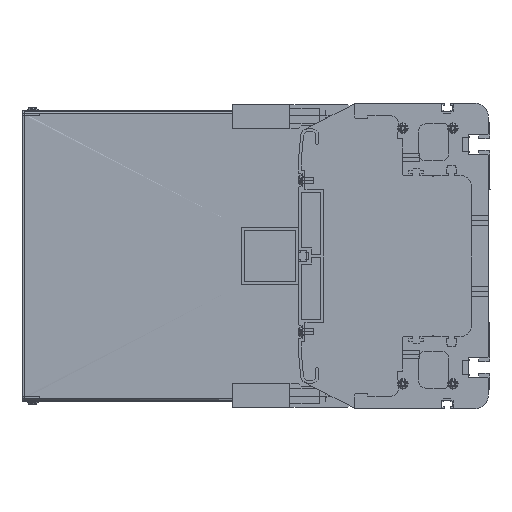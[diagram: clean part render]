
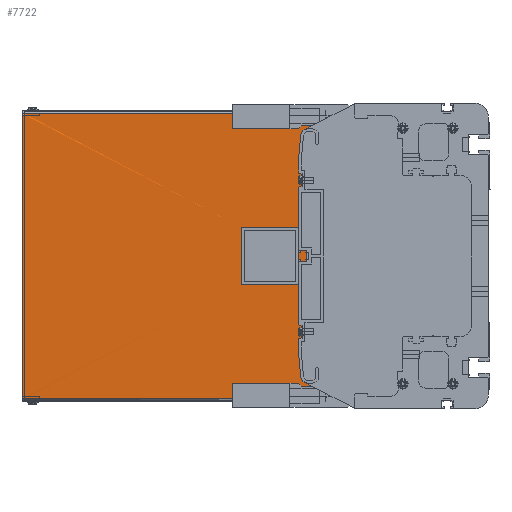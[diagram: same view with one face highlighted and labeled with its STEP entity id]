
A CAD part, left-side view. The second image highlights one B-rep face of the part: STEP entity #7722.
In plain terms, the highlighted planar face has unit normal (-1, 0, 0).
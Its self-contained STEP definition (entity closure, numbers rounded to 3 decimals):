
#153=DIRECTION('',(0.,1.,0.));
#154=VECTOR('',#153,1.5);
#155=CARTESIAN_POINT('',(-134.5,326.,98.5));
#156=LINE('',#155,#154);
#242=DIRECTION('',(0.,0.,1.));
#243=VECTOR('',#242,197.);
#244=CARTESIAN_POINT('',(-134.5,327.5,-98.5));
#245=LINE('',#244,#243);
#289=CARTESIAN_POINT('',(-134.5,326.,-98.5));
#290=CARTESIAN_POINT('',(-134.5,326.,-98.624));
#291=CARTESIAN_POINT('',(-134.521,326.,-98.867));
#292=CARTESIAN_POINT('',(-134.457,326.,-99.099));
#293=CARTESIAN_POINT('',(-134.457,326.,-99.212));
#295=CARTESIAN_POINT('',(-134.457,326.,99.212));
#296=CARTESIAN_POINT('',(-134.457,326.,99.099));
#297=CARTESIAN_POINT('',(-134.521,326.,98.867));
#298=CARTESIAN_POINT('',(-134.5,326.,98.624));
#299=CARTESIAN_POINT('',(-134.5,326.,98.5));
#301=CARTESIAN_POINT('',(-134.381,326.,99.941));
#302=CARTESIAN_POINT('',(-134.381,326.,99.745));
#303=CARTESIAN_POINT('',(-134.581,326.,99.506));
#304=CARTESIAN_POINT('',(-134.457,326.,99.278));
#305=CARTESIAN_POINT('',(-134.457,326.,99.212));
#307=DIRECTION('',(0.,0.,1.));
#308=VECTOR('',#307,200.);
#309=CARTESIAN_POINT('',(-134.5,95.,-100.));
#310=LINE('',#309,#308);
#311=CARTESIAN_POINT('',(-134.457,326.,-99.212));
#312=CARTESIAN_POINT('',(-134.457,326.,-99.278));
#313=CARTESIAN_POINT('',(-134.581,326.,-99.506));
#314=CARTESIAN_POINT('',(-134.381,326.,-99.745));
#315=CARTESIAN_POINT('',(-134.381,326.,-99.941));
#317=DIRECTION('',(0.,-1.,0.));
#318=VECTOR('',#317,40.);
#319=CARTESIAN_POINT('',(-134.5,174.,20.));
#320=LINE('',#319,#318);
#321=DIRECTION('',(0.,0.,1.));
#322=VECTOR('',#321,40.);
#323=CARTESIAN_POINT('',(-134.5,174.,-20.));
#324=LINE('',#323,#322);
#325=DIRECTION('',(0.,1.,0.));
#326=VECTOR('',#325,40.);
#327=CARTESIAN_POINT('',(-134.5,134.,-20.));
#328=LINE('',#327,#326);
#329=DIRECTION('',(0.,0.,-1.));
#330=VECTOR('',#329,40.);
#331=CARTESIAN_POINT('',(-134.5,134.,20.));
#332=LINE('',#331,#330);
#353=DIRECTION('',(0.,-1.,0.));
#354=VECTOR('',#353,1.5);
#355=CARTESIAN_POINT('',(-134.5,327.5,-98.5));
#356=LINE('',#355,#354);
#361=DIRECTION('',(0.001,1.,0.));
#362=VECTOR('',#361,231.);
#363=CARTESIAN_POINT('',(-134.5,95.,100.));
#364=LINE('',#363,#362);
#3242=DIRECTION('',(-0.001,-1.,0.));
#3243=VECTOR('',#3242,231.);
#3244=CARTESIAN_POINT('',(-134.381,326.,-99.941));
#3245=LINE('',#3244,#3243);
#5702=CARTESIAN_POINT('',(-134.5,95.,100.));
#5703=VERTEX_POINT('',#5702);
#5704=CARTESIAN_POINT('',(-134.5,95.,-100.));
#5705=VERTEX_POINT('',#5704);
#6970=CARTESIAN_POINT('',(-134.5,327.5,98.5));
#6972=VERTEX_POINT('',#6970);
#6974=CARTESIAN_POINT('',(-134.5,327.5,-98.5));
#6975=VERTEX_POINT('',#6974);
#7130=CARTESIAN_POINT('',(-134.183,326.,99.842));
#7131=VERTEX_POINT('',#7130);
#7132=VERTEX_POINT('',#305);
#7133=VERTEX_POINT('',#299);
#7134=VERTEX_POINT('',#289);
#7135=VERTEX_POINT('',#293);
#7136=VERTEX_POINT('',#315);
#7329=CARTESIAN_POINT('',(-134.5,174.,20.));
#7330=CARTESIAN_POINT('',(-134.5,134.,20.));
#7331=VERTEX_POINT('',#7329);
#7332=VERTEX_POINT('',#7330);
#7333=CARTESIAN_POINT('',(-134.5,174.,-20.));
#7334=VERTEX_POINT('',#7333);
#7335=CARTESIAN_POINT('',(-134.5,134.,-20.));
#7336=VERTEX_POINT('',#7335);
#7689=CARTESIAN_POINT('',(-134.5,210.5,0.));
#7690=DIRECTION('',(1.,0.,0.));
#7691=DIRECTION('',(0.,0.,1.));
#7692=AXIS2_PLACEMENT_3D('',#7689,#7690,#7691);
#7693=PLANE('',#7692);
#7695=ORIENTED_EDGE('',*,*,#7694,.F.);
#7697=ORIENTED_EDGE('',*,*,#7696,.F.);
#7698=ORIENTED_EDGE('',*,*,#7612,.T.);
#7699=ORIENTED_EDGE('',*,*,#7544,.F.);
#7700=ORIENTED_EDGE('',*,*,#7542,.F.);
#7701=ORIENTED_EDGE('',*,*,#7540,.F.);
#7703=ORIENTED_EDGE('',*,*,#7702,.F.);
#7705=ORIENTED_EDGE('',*,*,#7704,.F.);
#7707=ORIENTED_EDGE('',*,*,#7706,.F.);
#7709=ORIENTED_EDGE('',*,*,#7708,.F.);
#7710=EDGE_LOOP('',(#7695,#7697,#7698,#7699,#7700,#7701,#7703,#7705,#7707,
#7709));
#7711=FACE_OUTER_BOUND('',#7710,.F.);
#7713=ORIENTED_EDGE('',*,*,#7712,.F.);
#7715=ORIENTED_EDGE('',*,*,#7714,.F.);
#7717=ORIENTED_EDGE('',*,*,#7716,.F.);
#7719=ORIENTED_EDGE('',*,*,#7718,.F.);
#7720=EDGE_LOOP('',(#7713,#7715,#7717,#7719));
#7721=FACE_BOUND('',#7720,.F.);
#7722=ADVANCED_FACE('',(#7711,#7721),#7693,.F.);
#294=B_SPLINE_CURVE_WITH_KNOTS('',3,(#289,#290,#291,#292,#293),.UNSPECIFIED.,
.F.,.F.,(4,1,4),(0.,0.5,1.),.UNSPECIFIED.);
#300=B_SPLINE_CURVE_WITH_KNOTS('',3,(#295,#296,#297,#298,#299),.UNSPECIFIED.,
.F.,.F.,(4,1,4),(0.,0.5,1.),.UNSPECIFIED.);
#306=B_SPLINE_CURVE_WITH_KNOTS('',3,(#301,#302,#303,#304,#305),.UNSPECIFIED.,
.F.,.F.,(4,1,4),(0.,0.5,1.),.UNSPECIFIED.);
#316=B_SPLINE_CURVE_WITH_KNOTS('',3,(#311,#312,#313,#314,#315),.UNSPECIFIED.,
.F.,.F.,(4,1,4),(0.,0.5,1.),.UNSPECIFIED.);
#7540=EDGE_CURVE('',#7131,#7132,#306,.T.);
#7542=EDGE_CURVE('',#7132,#7133,#300,.T.);
#7544=EDGE_CURVE('',#7133,#6972,#156,.T.);
#7612=EDGE_CURVE('',#6975,#6972,#245,.T.);
#7694=EDGE_CURVE('',#7134,#7135,#294,.T.);
#7696=EDGE_CURVE('',#6975,#7134,#356,.T.);
#7702=EDGE_CURVE('',#5703,#7131,#364,.T.);
#7704=EDGE_CURVE('',#5705,#5703,#310,.T.);
#7706=EDGE_CURVE('',#7136,#5705,#3245,.T.);
#7708=EDGE_CURVE('',#7135,#7136,#316,.T.);
#7712=EDGE_CURVE('',#7331,#7332,#320,.T.);
#7714=EDGE_CURVE('',#7334,#7331,#324,.T.);
#7716=EDGE_CURVE('',#7336,#7334,#328,.T.);
#7718=EDGE_CURVE('',#7332,#7336,#332,.T.);
